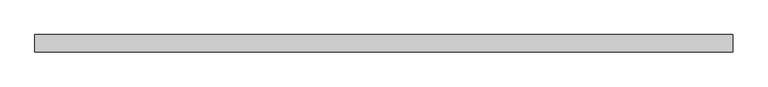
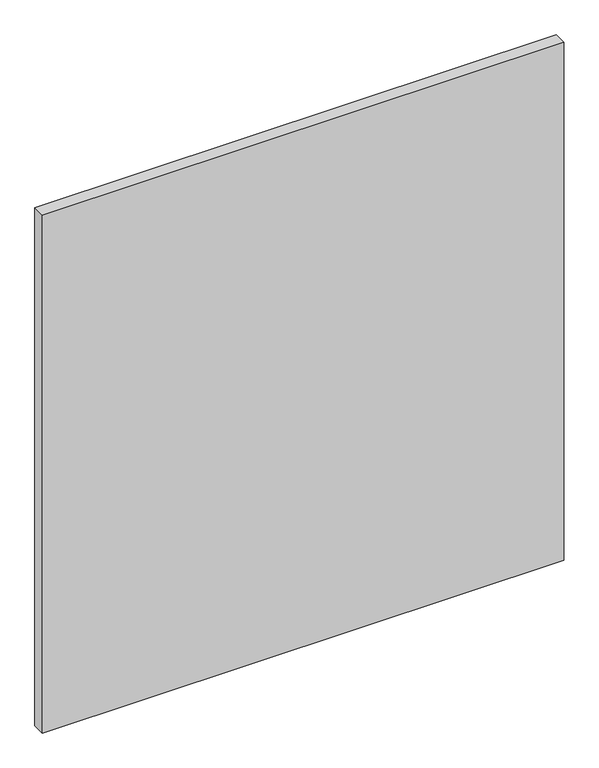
"""IFC4 building model written with IfcOpenShell, lengths in millimetres: plate geometry, Системная панель : С остеклением."""

import ifcopenshell
import ifcopenshell.guid

model = None  # the IFC model being written
_history = None  # IfcOwnerHistory: only IFC2X3 demands one
_inside = {}  # id of a spatial element -> (the spatial element, [elements in it])
_under = {}  # id of a project, library or spatial element -> (it, [spatial elements below it])
_declared = {}  # id of a project -> (the project, [libraries it declares])
_typed = {}  # id of a type object -> (the type object, [elements of that type])
_made_of = {}  # id of a material, layer set ... -> (it, [elements and type objects made of it])


def new_model(schema):
    """Start an empty IFC model of exactly this schema.

    Asked for "IFC4X3", IfcOpenShell would pick the latest addendum, in which some entities
    have other attributes; the version numbers below select the first issue.
    IFC2X3 requires an IfcOwnerHistory on every rooted entity: one is made here for all.
    """
    global model, _history
    if schema == "IFC4X3":
        model = ifcopenshell.file(schema_version=(4, 3, 0, 0))
    else:
        model = ifcopenshell.file(schema=schema)
    _inside.clear()
    _under.clear()
    _declared.clear()
    _typed.clear()
    _made_of.clear()
    _history = None
    if model.schema == "IFC2X3":
        org = make("IfcOrganization", Name="unknown")
        user = make(
            "IfcPersonAndOrganization",
            ThePerson=make("IfcPerson", FamilyName="unknown"),
            TheOrganization=org,
        )
        app = make(
            "IfcApplication",
            ApplicationDeveloper=org,
            Version="unknown",
            ApplicationFullName="unknown",
            ApplicationIdentifier="unknown",
        )
        _history = make(
            "IfcOwnerHistory",
            OwningUser=user,
            OwningApplication=app,
            ChangeAction="ADDED",
            CreationDate=0,
        )
    return model


def make(cls, **values):
    """One entity of the class cls with the attributes given. An attribute that is None is left unset."""
    return model.create_entity(
        cls, **{name: value for name, value in values.items() if value is not None}
    )


def rooted(cls, **values):
    """An entity with a GlobalId (a new one), such as an element, a storey or a relation."""
    return make(cls, GlobalId=ifcopenshell.guid.new(), OwnerHistory=_history, **values)


def si_unit(unit_type, name, prefix=None):
    """IfcSIUnit, for example si_unit("LENGTHUNIT", "METRE", prefix="MILLI")."""
    return make("IfcSIUnit", UnitType=unit_type, Prefix=prefix, Name=name)


def assignment(units):
    """IfcUnitAssignment: the units of a project."""
    return None if units is None else make("IfcUnitAssignment", Units=units)


def point(xyz):
    """IfcCartesianPoint."""
    return None if xyz is None else make("IfcCartesianPoint", Coordinates=xyz)


def direction(xyz):
    """IfcDirection."""
    return None if xyz is None else make("IfcDirection", DirectionRatios=xyz)


def frame(location, z_axis=None, x_axis=None):
    """IfcAxis2Placement3D, a coordinate frame: its origin and axes. An axis left out is left unset."""
    return make(
        "IfcAxis2Placement3D",
        Location=point(location),
        Axis=direction(z_axis),
        RefDirection=direction(x_axis),
    )


def origin():
    """The frame at (0, 0, 0) with its axes left unset."""
    return frame((0.0, 0.0, 0.0))


def origin_with_axes():
    """The frame at (0, 0, 0) with the z axis (0, 0, 1) and the x axis (1, 0, 0) written out."""
    return frame((0.0, 0.0, 0.0), z_axis=(0.0, 0.0, 1.0), x_axis=(1.0, 0.0, 0.0))


def place(relative_to, where):
    """IfcLocalPlacement: puts the frame where relative to a parent placement (None: the world)."""
    return make(
        "IfcLocalPlacement", PlacementRelTo=relative_to, RelativePlacement=where
    )


def context(
    kind, dimensions, precision=None, world=None, true_north=None, identifier=None
):
    """IfcGeometricRepresentationContext, for example the 3D "Model" context."""
    return make(
        "IfcGeometricRepresentationContext",
        ContextIdentifier=identifier,
        ContextType=kind,
        CoordinateSpaceDimension=dimensions,
        Precision=precision,
        WorldCoordinateSystem=world,
        TrueNorth=true_north,
    )


def project(units=None, contexts=None):
    """IfcProject with its units and contexts."""
    return rooted(
        "IfcProject",
        Name="project",
        RepresentationContexts=contexts,
        UnitsInContext=assignment(units),
    )


def spatial(cls, under=None, at=None, **own):
    """A site, building, storey or space (cls), placed at a placement, below another one or the project."""
    s = rooted(cls, ObjectPlacement=at, **own)
    if under is not None:
        _under.setdefault(under.id(), (under, []))[1].append(s)
    return s


def polyline(points):
    """IfcPolyline through the points."""
    return make("IfcPolyline", Points=[point(p) for p in points])


def outline(outer, holes=None, kind="AREA"):
    """IfcArbitraryClosedProfileDef: a profile drawn as a closed curve; with holes, ...WithVoids."""
    if holes is None:
        return make("IfcArbitraryClosedProfileDef", ProfileType=kind, OuterCurve=outer)
    return make(
        "IfcArbitraryProfileDefWithVoids",
        ProfileType=kind,
        OuterCurve=outer,
        InnerCurves=holes,
    )


def extrude(swept, where, along, depth):
    """IfcExtrudedAreaSolid: the profile swept, set in the frame where, extruded along a direction by depth."""
    return make(
        "IfcExtrudedAreaSolid",
        SweptArea=swept,
        Position=where,
        ExtrudedDirection=direction(along),
        Depth=depth,
    )


def shape(context_of_items, identifier, shape_type, items):
    """IfcShapeRepresentation: the items that make up one representation, for example the "Body"."""
    return make(
        "IfcShapeRepresentation",
        ContextOfItems=context_of_items,
        RepresentationIdentifier=identifier,
        RepresentationType=shape_type,
        Items=items,
    )


def source(mapping_origin, context_of_items, identifier, shape_type, items):
    """IfcRepresentationMap: a shape defined once, which mapped items show again and again."""
    return make(
        "IfcRepresentationMap",
        MappingOrigin=mapping_origin,
        MappedRepresentation=shape(context_of_items, identifier, shape_type, items),
    )


def transform(
    local_origin,
    x_axis=None,
    y_axis=None,
    z_axis=None,
    scale=None,
    scale2=None,
    scale3=None,
    uniform=True,
):
    """IfcCartesianTransformationOperator3D, or its non-uniform kind. x_axis, y_axis, z_axis: its Axis1, 2, 3."""
    if uniform:
        return make(
            "IfcCartesianTransformationOperator3D",
            Axis1=direction(x_axis),
            Axis2=direction(y_axis),
            LocalOrigin=point(local_origin),
            Scale=scale,
            Axis3=direction(z_axis),
        )
    return make(
        "IfcCartesianTransformationOperator3DnonUniform",
        Axis1=direction(x_axis),
        Axis2=direction(y_axis),
        LocalOrigin=point(local_origin),
        Scale=scale,
        Axis3=direction(z_axis),
        Scale2=scale2,
        Scale3=scale3,
    )


def mapped(mapping_source, mapping_target):
    """IfcMappedItem: shows the shape of a source again, moved by a transform."""
    return make(
        "IfcMappedItem", MappingSource=mapping_source, MappingTarget=mapping_target
    )


def made_of(thing, what):
    """Note that an element or type object is made of a material, layer set ...; save() writes the relation."""
    if what is not None:
        _made_of.setdefault(what.id(), (what, []))[1].append(thing)
    return thing


def element(
    cls,
    number,
    at=None,
    inside=None,
    cuts=None,
    type_object=None,
    material=None,
    context=None,
    identifier="Body",
    shape_type=None,
    held_by="IfcProductDefinitionShape",
    body=None,
    shapes=None,
    **own,
):
    """One element of the class cls, such as IfcWall. Its Tag is "e" and its number.

    at: its placement. inside: the storey or other place that contains it. cuts: it is an
    opening in that element (IfcRelVoidsElement). A single representation is given by context,
    identifier, shape_type and body (its items); several are given by shapes. held_by: the class
    of the entity that holds the representations. save() writes the other relations.
    """
    e = rooted(cls, Tag="e%d" % number, ObjectPlacement=at, **own)
    if body is not None:
        shapes = [shape(context, identifier, shape_type, body)]
    if shapes is not None:
        e.Representation = make(held_by, Representations=shapes)
    if inside is not None:
        _inside.setdefault(inside.id(), (inside, []))[1].append(e)
    if cuts is not None:
        rooted(
            "IfcRelVoidsElement", RelatingBuildingElement=cuts, RelatedOpeningElement=e
        )
    if type_object is not None:
        _typed.setdefault(type_object.id(), (type_object, []))[1].append(e)
    return made_of(e, material)


def aggregate(whole, parts):
    """IfcRelAggregates: a whole, such as a stair, and the parts it consists of."""
    return rooted("IfcRelAggregates", RelatingObject=whole, RelatedObjects=parts)


def save(model, path):
    """Write the relations noted so far, then the file.

    IfcRelAggregates (storeys below a building ...), IfcRelContainedInSpatialStructure (elements
    in a storey), IfcRelDefinesByType, IfcRelAssociatesMaterial and IfcRelDeclares: one each for
    every whole, place, type object, material and project.
    """
    for whole, parts in _under.values():
        aggregate(whole, parts)
    for where, things in _inside.values():
        rooted(
            "IfcRelContainedInSpatialStructure",
            RelatedElements=things,
            RelatingStructure=where,
        )
    for kind, things in _typed.values():
        rooted("IfcRelDefinesByType", RelatedObjects=things, RelatingType=kind)
    for what, things in _made_of.values():
        rooted("IfcRelAssociatesMaterial", RelatedObjects=things, RelatingMaterial=what)
    for by, libraries in _declared.values():
        rooted("IfcRelDeclares", RelatingContext=by, RelatedDefinitions=libraries)
    model.write(path)


def plate_78f59e4e(model_context):
    return source(origin(), model_context, "Body", "SweptSolid", [
        extrude(outline(polyline([(500.0, 24.5), (-500.0, 24.5), (-500.0, 49.5), (500.0, 49.5), (500.0, 24.5)])), origin_with_axes(), (0.0, 0.0, 1.0), 1050.0),
    ])


if __name__ == "__main__":
    model = new_model("IFC4")
    model_context = context("Model", 3, world=origin())
    ifc_project = project(units=[si_unit("LENGTHUNIT", "METRE", prefix="MILLI")], contexts=[model_context])
    site = spatial("IfcSite", under=ifc_project)
    building = spatial("IfcBuilding", under=site)
    placement = place(None, origin())
    plate_shape = plate_78f59e4e(model_context)
    element("IfcPlate", 1, ObjectType="Системная панель : С остеклением", at=placement, inside=building, context=model_context, shape_type="MappedRepresentation", body=[
        mapped(plate_shape, transform((0.0, 0.0, 0.0), x_axis=(1.0, 0.0, 0.0), y_axis=(0.0, 1.0, 0.0), z_axis=(0.0, 0.0, 1.0))),
    ])
    save(model, "model.ifc")
